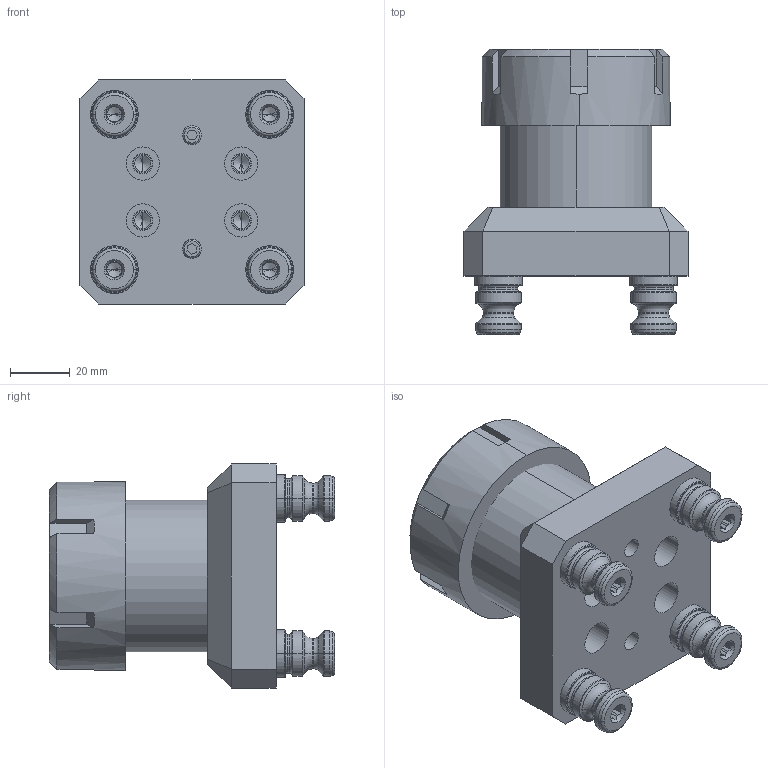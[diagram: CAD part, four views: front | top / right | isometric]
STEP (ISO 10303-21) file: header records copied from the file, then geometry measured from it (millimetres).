
FILE_DESCRIPTION (( 'STEP AP214' ), '1' );
FILE_NAME ('R52-CER40.STEP', '2019-05-12T17:37:28', ( '' ), ( '' ), 'SwSTEP 2.0', 'SolidWorks 2018', '' );
FILE_SCHEMA (( 'AUTOMOTIVE_DESIGN' ));
Length unit declared in the file: millimetre
Products named in the file (10): PS16F; HW.39858.CPSS_M8X1.25X20MM; PS16F-1_PS16F; CER40; ER40 COLLET_1"; LP250_NO THREADS ; CER40-2; CER40-1_CER40; R52-CER40-1; R52-CER40
Assembly tree (13 placements, depth 3):
  R52-CER40
    R52-CER40-1
    CER40
      CER40-1_CER40
      CER40-2
      LP250_NO THREADS   x2
      ER40 COLLET_1"
    PS16F  x4
      PS16F-1_PS16F
      HW.39858.CPSS_M8X1.25X20MM
Bounding box: 75.01 x 95.44 x 75.01 mm (x, y, z)
Volume: 227417.7 mm3; surface area: 82100 mm2
Topology: 14 solids, 14 shells, 1242 faces, 3115 edges, 1941 vertices
Faces by surface type: plane 506, cylinder 311, cone 201, torus 116, bspline 108
Entity records: 35137 total; most frequent: CARTESIAN_POINT 14243, ORIENTED_EDGE 3920, DIRECTION 3311, EDGE_CURVE 1960, VERTEX_POINT 1273, AXIS2_PLACEMENT_3D 1125, VECTOR 1061, LINE 1061
